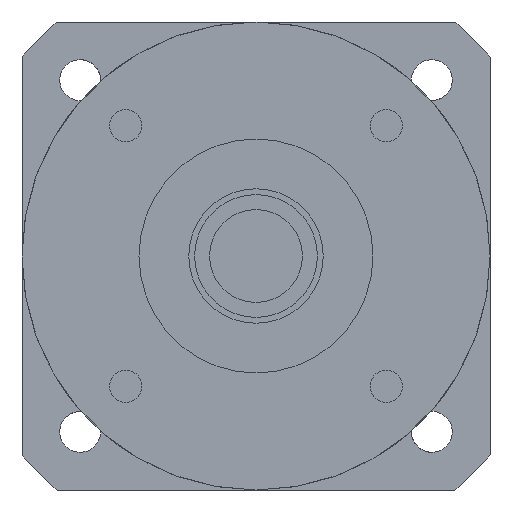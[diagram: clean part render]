
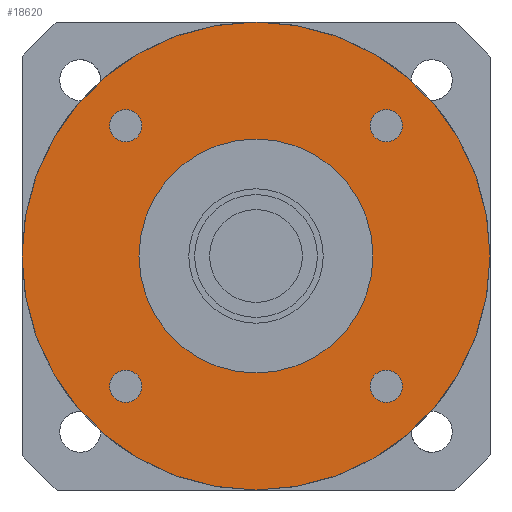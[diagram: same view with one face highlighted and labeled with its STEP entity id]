
A CAD part, left-side view. The second image highlights one B-rep face of the part: STEP entity #18620.
In plain terms, the highlighted planar face has unit normal (-1, 0, 0) as drawn and (0, 0, -1) by its records, which use the part's own axes.
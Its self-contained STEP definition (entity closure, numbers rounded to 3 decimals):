
#17480=CARTESIAN_POINT('',(-40.,0.,-42.));
#17490=VERTEX_POINT('',#17480);
#17580=CARTESIAN_POINT('',(40.,0.,-42.));
#17590=VERTEX_POINT('',#17580);
#17620=CARTESIAN_POINT('',(0.,0.,-42.)
);
#17630=DIRECTION('',(0.,0.,1.));
#17640=DIRECTION('',(1.,0.,0.));
#17650=AXIS2_PLACEMENT_3D('',#17620,#17630,#17640);
#17660=CIRCLE('',#17650,40.);
#17670=CARTESIAN_POINT('',(0.,-40.,-42.));
#17680=VERTEX_POINT('',#17670);
#17690=EDGE_CURVE('',#17680,#17590,#17660,.T.);
#17710=EDGE_CURVE('',#17490,#17680,#17660,.T.);
#17760=CARTESIAN_POINT('',(0.,0.,-42.)
);
#17770=DIRECTION('',(0.,0.,-1.));
#17780=DIRECTION('',(1.,0.,0.));
#17790=AXIS2_PLACEMENT_3D('',#17760,#17770,#17780);
#17800=PLANE('',#17790);
#17810=CARTESIAN_POINT('',(22.274,22.274,-42.));
#17820=DIRECTION('',(0.,0.,-1.));
#17830=DIRECTION('',(0.,1.,0.));
#17840=AXIS2_PLACEMENT_3D('',#17810,#17820,#17830);
#17850=CIRCLE('',#17840,2.75);
#17860=CARTESIAN_POINT('',(22.274,25.024,-42.));
#17870=VERTEX_POINT('',#17860);
#17880=CARTESIAN_POINT('',(22.274,19.524,-42.));
#17890=VERTEX_POINT('',#17880);
#17900=EDGE_CURVE('',#17870,#17890,#17850,.T.);
#17910=ORIENTED_EDGE('',*,*,#17900,.F.);
#17920=EDGE_CURVE('',#17890,#17870,#17850,.T.);
#17930=ORIENTED_EDGE('',*,*,#17920,.F.);
#17940=EDGE_LOOP('',(#17930,#17910));
#17950=FACE_BOUND('',#17940,.T.);
#17960=CARTESIAN_POINT('',(-22.274,22.274,-42.));
#17970=DIRECTION('',(0.,0.,-1.));
#17980=DIRECTION('',(-1.,0.,0.));
#17990=AXIS2_PLACEMENT_3D('',#17960,#17970,#17980);
#18000=CIRCLE('',#17990,2.75);
#18010=CARTESIAN_POINT('',(-25.024,22.274,-42.));
#18020=VERTEX_POINT('',#18010);
#18030=CARTESIAN_POINT('',(-19.524,22.274,-42.));
#18040=VERTEX_POINT('',#18030);
#18050=EDGE_CURVE('',#18020,#18040,#18000,.T.);
#18060=ORIENTED_EDGE('',*,*,#18050,.F.);
#18070=EDGE_CURVE('',#18040,#18020,#18000,.T.);
#18080=ORIENTED_EDGE('',*,*,#18070,.F.);
#18090=EDGE_LOOP('',(#18080,#18060));
#18100=FACE_BOUND('',#18090,.T.);
#18110=CARTESIAN_POINT('',(-22.274,-22.274,-42.));
#18120=DIRECTION('',(0.,0.,-1.));
#18130=DIRECTION('',(0.,-1.,0.));
#18140=AXIS2_PLACEMENT_3D('',#18110,#18120,#18130);
#18150=CIRCLE('',#18140,2.75);
#18160=CARTESIAN_POINT('',(-22.274,-25.024,-42.));
#18170=VERTEX_POINT('',#18160);
#18180=CARTESIAN_POINT('',(-22.274,-19.524,-42.));
#18190=VERTEX_POINT('',#18180);
#18200=EDGE_CURVE('',#18170,#18190,#18150,.T.);
#18210=ORIENTED_EDGE('',*,*,#18200,.F.);
#18220=EDGE_CURVE('',#18190,#18170,#18150,.T.);
#18230=ORIENTED_EDGE('',*,*,#18220,.F.);
#18240=EDGE_LOOP('',(#18230,#18210));
#18250=FACE_BOUND('',#18240,.T.);
#18260=CARTESIAN_POINT('',(0.,0.,
-42.));
#18270=DIRECTION('',(0.,0.,-1.));
#18280=DIRECTION('',(-1.,0.,0.));
#18290=AXIS2_PLACEMENT_3D('',#18260,#18270,#18280);
#18300=CIRCLE('',#18290,20.);
#18310=CARTESIAN_POINT('',(-20.,0.,-42.));
#18320=VERTEX_POINT('',#18310);
#18330=CARTESIAN_POINT('',(20.,0.,-42.));
#18340=VERTEX_POINT('',#18330);
#18350=EDGE_CURVE('',#18320,#18340,#18300,.T.);
#18360=ORIENTED_EDGE('',*,*,#18350,.F.);
#18370=EDGE_CURVE('',#18340,#18320,#18300,.T.);
#18380=ORIENTED_EDGE('',*,*,#18370,.F.);
#18390=EDGE_LOOP('',(#18380,#18360));
#18400=FACE_BOUND('',#18390,.T.);
#18410=CARTESIAN_POINT('',(22.274,-22.274,-42.));
#18420=DIRECTION('',(0.,0.,-1.));
#18430=DIRECTION('',(1.,0.,0.));
#18440=AXIS2_PLACEMENT_3D('',#18410,#18420,#18430);
#18450=CIRCLE('',#18440,2.75);
#18460=CARTESIAN_POINT('',(25.024,-22.274,-42.));
#18470=VERTEX_POINT('',#18460);
#18480=CARTESIAN_POINT('',(19.524,-22.274,-42.));
#18490=VERTEX_POINT('',#18480);
#18500=EDGE_CURVE('',#18470,#18490,#18450,.T.);
#18510=ORIENTED_EDGE('',*,*,#18500,.F.);
#18520=EDGE_CURVE('',#18490,#18470,#18450,.T.);
#18530=ORIENTED_EDGE('',*,*,#18520,.F.);
#18540=EDGE_LOOP('',(#18530,#18510));
#18550=FACE_BOUND('',#18540,.T.);
#18560=ORIENTED_EDGE('',*,*,#17690,.F.);
#18570=EDGE_CURVE('',#17590,#17490,#17660,.T.);
#18580=ORIENTED_EDGE('',*,*,#18570,.F.);
#18590=ORIENTED_EDGE('',*,*,#17710,.F.);
#18600=EDGE_LOOP('',(#18590,#18580,#18560));
#18610=FACE_OUTER_BOUND('',#18600,.T.);
#18620=ADVANCED_FACE('',(#17950,#18100,#18250,#18400,#18550,#18610),
#17800,.T.);
